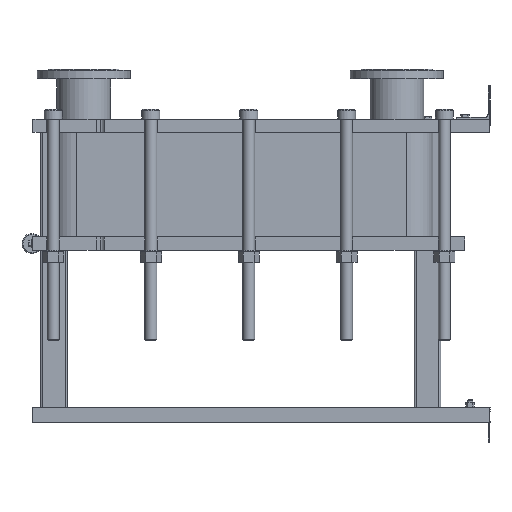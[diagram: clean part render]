
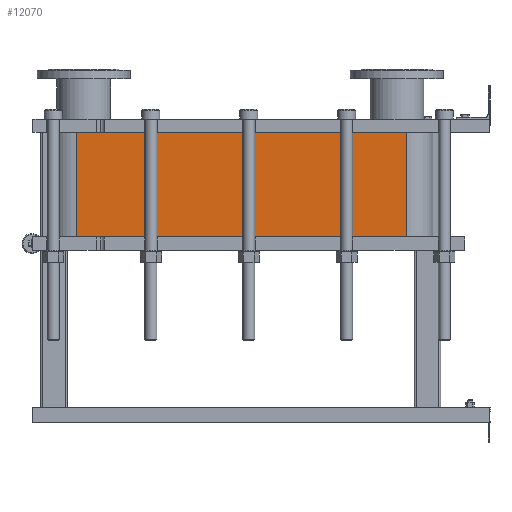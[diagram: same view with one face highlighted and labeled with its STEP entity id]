
A CAD part, left-side view. The second image highlights one B-rep face of the part: STEP entity #12070.
In plain terms, the highlighted planar face has unit normal (-1, 0, 0).
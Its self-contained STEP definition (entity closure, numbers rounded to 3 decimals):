
#1064=LINE('',#21140,#2164);
#1065=LINE('',#21144,#2165);
#1066=LINE('',#21146,#2166);
#1067=LINE('',#21147,#2167);
#2164=VECTOR('',#15790,10.);
#2165=VECTOR('',#15795,10.);
#2166=VECTOR('',#15796,10.);
#2167=VECTOR('',#15797,10.);
#3304=FACE_OUTER_BOUND('',#4091,.T.);
#4091=EDGE_LOOP('',(#9793,#9794,#9795,#9796));
#5677=VERTEX_POINT('',#21137);
#5678=VERTEX_POINT('',#21139);
#5679=VERTEX_POINT('',#21143);
#5680=VERTEX_POINT('',#21145);
#7118=EDGE_CURVE('',#5678,#5677,#1064,.T.);
#7120=EDGE_CURVE('',#5677,#5679,#1065,.T.);
#7121=EDGE_CURVE('',#5680,#5679,#1066,.T.);
#7122=EDGE_CURVE('',#5680,#5678,#1067,.T.);
#9793=ORIENTED_EDGE('',*,*,#7120,.T.);
#9794=ORIENTED_EDGE('',*,*,#7121,.F.);
#9795=ORIENTED_EDGE('',*,*,#7122,.T.);
#9796=ORIENTED_EDGE('',*,*,#7118,.T.);
#11441=PLANE('',#13191);
#12070=ADVANCED_FACE('',(#3304),#11441,.T.);
#13191=AXIS2_PLACEMENT_3D('',#21142,#15793,#15794);
#15790=DIRECTION('',(0.,0.,-1.));
#15793=DIRECTION('center_axis',(-1.,0.,0.));
#15794=DIRECTION('ref_axis',(0.,1.,0.));
#15795=DIRECTION('',(0.,-1.,0.));
#15796=DIRECTION('',(0.,0.,-1.));
#15797=DIRECTION('',(0.,1.,0.));
#21137=CARTESIAN_POINT('',(-248.152,1243.818,-313.95));
#21139=CARTESIAN_POINT('',(-248.152,1243.818,0.));
#21140=CARTESIAN_POINT('',(-248.152,1243.818,0.));
#21142=CARTESIAN_POINT('Origin',(-248.152,251.818,0.));
#21143=CARTESIAN_POINT('',(-248.152,251.818,-313.95));
#21144=CARTESIAN_POINT('',(-248.152,499.818,-313.95));
#21145=CARTESIAN_POINT('',(-248.152,251.818,0.));
#21146=CARTESIAN_POINT('',(-248.152,251.818,0.));
#21147=CARTESIAN_POINT('',(-248.152,251.818,0.));
